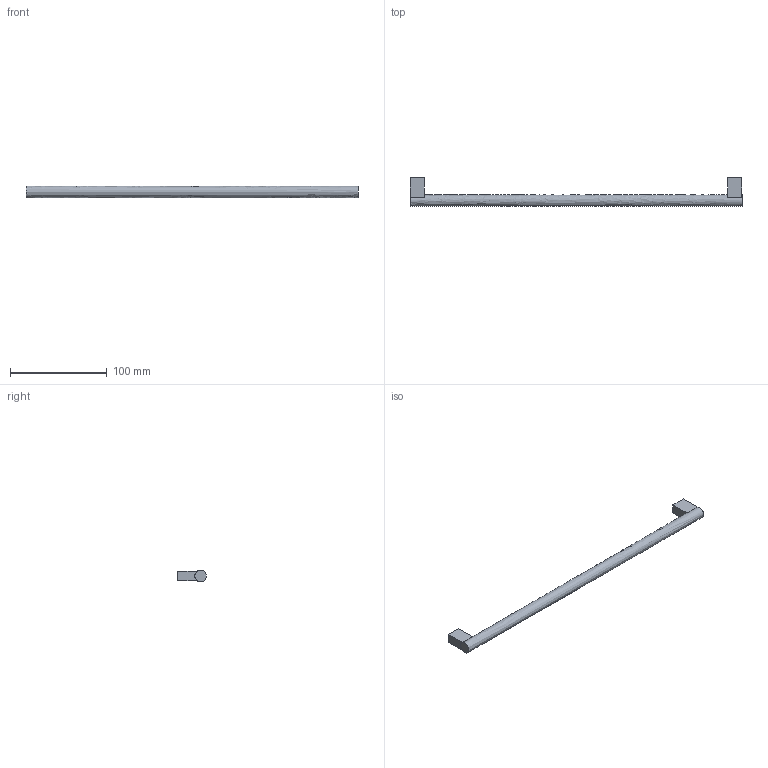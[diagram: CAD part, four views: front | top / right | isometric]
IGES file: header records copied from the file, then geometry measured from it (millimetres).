
Start section: Data from Parasolid IGES Translator 15.0.47, Copyright(c) 2006 Siemens P LM Software. All Rights Reserved.
Global section: file name: 9212084.igs; native system:  By UGS Corp.; preprocessor: XPlus GENERIC/IGES 3.0; author: Noname; organization: Noname; date: 20160311.190255; units: millimetre
Bounding box: 344 x 30 x 12 mm (x, y, z)
Surface area: 15333.9 mm2 (no closed solid volume)
Topology: 0 solids, 0 shells, 17 faces, 66 edges, 62 vertices
Faces by surface type: extrusion 14, revolution 3
